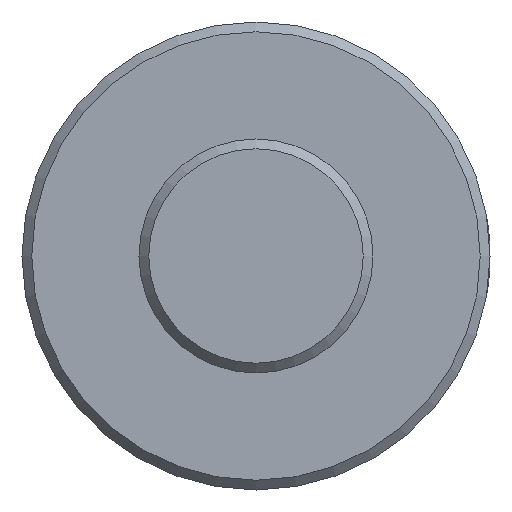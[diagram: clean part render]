
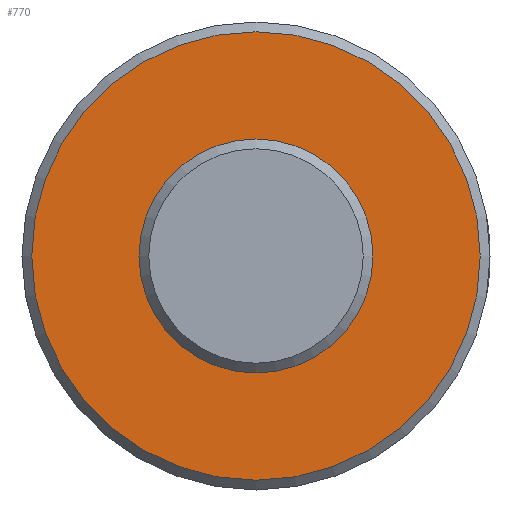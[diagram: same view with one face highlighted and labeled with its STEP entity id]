
A CAD part, left-side view. The second image highlights one B-rep face of the part: STEP entity #770.
In plain terms, the highlighted planar face has unit normal (-1, 0, 0).
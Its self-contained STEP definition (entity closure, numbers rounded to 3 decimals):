
#4 = VERTEX_POINT ( 'NONE', #298 ) ;
#28 = CARTESIAN_POINT ( 'NONE',  ( -60., 0., 0. ) ) ;
#30 = FACE_BOUND ( 'NONE', #679, .T. ) ;
#45 = DIRECTION ( 'NONE',  ( -1., 0., 0. ) ) ;
#90 = VERTEX_POINT ( 'NONE', #228 ) ;
#103 = CARTESIAN_POINT ( 'NONE',  ( -60., 0., 0. ) ) ;
#108 = CARTESIAN_POINT ( 'NONE',  ( -60., 0., 0. ) ) ;
#166 = DIRECTION ( 'NONE',  ( 1., 0., 0. ) ) ;
#176 = FACE_OUTER_BOUND ( 'NONE', #258, .T. ) ;
#216 = CIRCLE ( 'NONE', #321, 11.5 ) ;
#228 = CARTESIAN_POINT ( 'NONE',  ( -60., 0., 6. ) ) ;
#240 = DIRECTION ( 'NONE',  ( 0., 1., 0. ) ) ;
#258 = EDGE_LOOP ( 'NONE', ( #584 ) ) ;
#260 = CIRCLE ( 'NONE', #819, 6. ) ;
#269 = EDGE_CURVE ( 'NONE', #90, #90, #260, .T. ) ;
#298 = CARTESIAN_POINT ( 'NONE',  ( -60., 0., -11.5 ) ) ;
#321 = AXIS2_PLACEMENT_3D ( 'NONE', #108, #45, #828 ) ;
#326 = EDGE_CURVE ( 'NONE', #4, #4, #216, .T. ) ;
#584 = ORIENTED_EDGE ( 'NONE', *, *, #326, .T. ) ;
#678 = DIRECTION ( 'NONE',  ( 1., 0., 0. ) ) ;
#679 = EDGE_LOOP ( 'NONE', ( #765 ) ) ;
#738 = PLANE ( 'NONE',  #892 ) ;
#765 = ORIENTED_EDGE ( 'NONE', *, *, #269, .T. ) ;
#770 = ADVANCED_FACE ( 'NONE', ( #30, #176 ), #738, .F. ) ;
#819 = AXIS2_PLACEMENT_3D ( 'NONE', #28, #678, #820 ) ;
#820 = DIRECTION ( 'NONE',  ( 0., 0., 1. ) ) ;
#828 = DIRECTION ( 'NONE',  ( 0., 0., -1. ) ) ;
#892 = AXIS2_PLACEMENT_3D ( 'NONE', #103, #166, #240 ) ;
